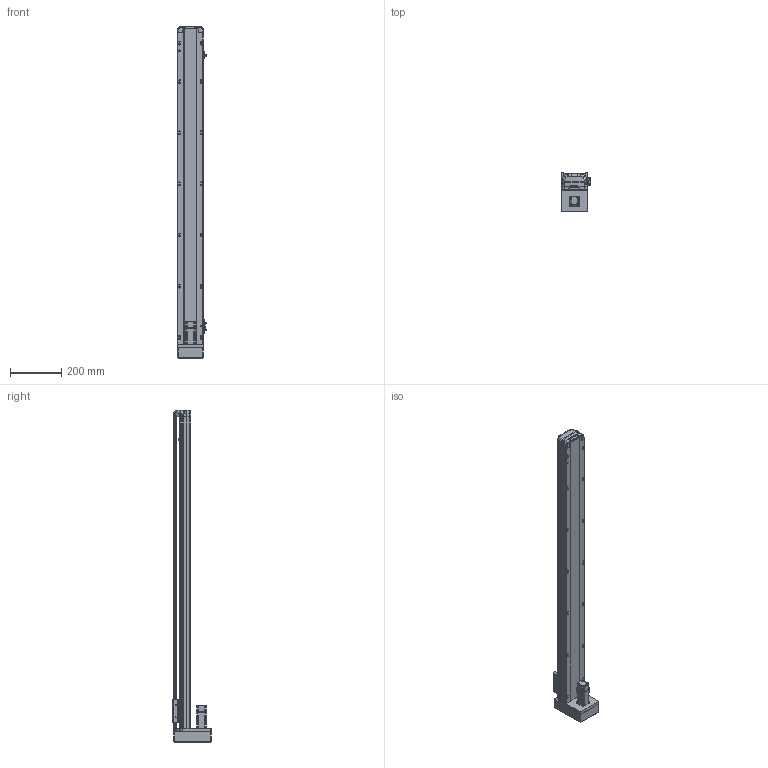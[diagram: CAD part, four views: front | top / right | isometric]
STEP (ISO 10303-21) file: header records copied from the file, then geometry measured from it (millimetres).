
FILE_DESCRIPTION (( 'STEP AP214' ), '1' );
FILE_NAME ('RTH10-XX-1050-M-M10-C4.STEP', '2025-10-25T05:49:02', ( 'Microsoft' ), ( 'Microsoft' ), 'SwSTEP 2.0', 'SolidWorks 2018', '' );
FILE_SCHEMA (( 'AUTOMOTIVE_DESIGN' ));
Length unit declared in the file: millimetre
Products named in the file (10): N_RTH12-M-018-裔赽^RTH10-XX-100-M-M10-C4; N_RTH13-L-012覜茼え俋离^RTH10-XX-100-M-M10-C4; N_OMRON EE-SX672 传感器^RTH10-XX-100-M-M10-C4; N_RTH12-M-011P-臏倰第菁釱^RTH10-XX-100-M-M10-C4; N_RTH12-M-007P-奻裔^RTH10-XX-100-M-M10-C4; RTH10-XX-1050-M-M10-C4; N_RTH12-GY-001P^RTH10-XX-100-M-M10-C4; N_RTH12-M-008-萇儂啣^RTH10-XX-100-M-M10-C4; N_P10^RTH10-XX-100-M-M10-C4; N_RTH12-GY-004-賑釱^RTH10-XX-100-M-M10-C4
Assembly tree (11 placements, depth 2):
  RTH10-XX-1050-M-M10-C4
    N_RTH12-M-011P-臏倰第菁釱^RTH10-XX-100-M-M10-C4
    N_RTH13-L-012覜茼え俋离^RTH10-XX-100-M-M10-C4
    N_OMRON EE-SX672 传感器^RTH10-XX-100-M-M10-C4  x3
    N_P10^RTH10-XX-100-M-M10-C4
    N_RTH12-M-007P-奻裔^RTH10-XX-100-M-M10-C4
    N_RTH12-M-008-萇儂啣^RTH10-XX-100-M-M10-C4
    N_RTH12-M-018-裔赽^RTH10-XX-100-M-M10-C4
    N_RTH12-GY-004-賑釱^RTH10-XX-100-M-M10-C4
    N_RTH12-GY-001P^RTH10-XX-100-M-M10-C4
Bounding box: 116.5 x 149 x 1297.31 mm (x, y, z)
Volume: 5593126.4 mm3; surface area: 833610.3 mm2
Topology: 10 solids, 12 shells, 1973 faces, 5527 edges, 3627 vertices
Faces by surface type: plane 963, cylinder 503, bspline 472, cone 29, sphere 4, torus 2
Entity records: 59831 total; most frequent: CARTESIAN_POINT 23607, ORIENTED_EDGE 8126, DIRECTION 6285, EDGE_CURVE 4069, VERTEX_POINT 2671, VECTOR 2123, LINE 2123, AXIS2_PLACEMENT_3D 2081
